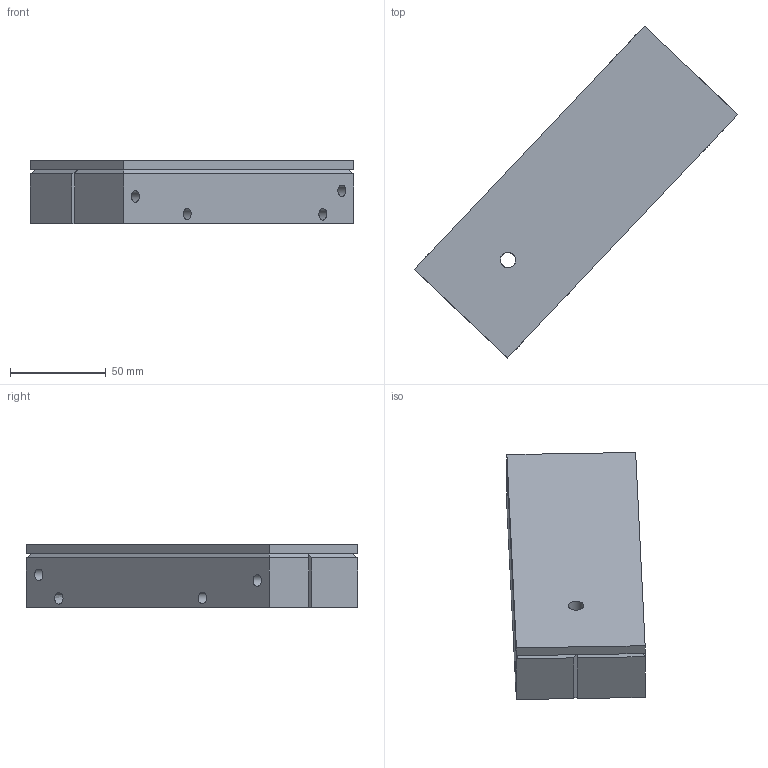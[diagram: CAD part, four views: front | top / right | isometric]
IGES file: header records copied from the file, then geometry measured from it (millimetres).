
Global section: file name: MK5_Forged_Rear_Arm_All; native system: unknown; preprocessor: unknown; author: unknown; organization: unknown; date: 20240418.082513; units: millimetre
Bounding box: 168.72 x 173.01 x 33 mm (x, y, z)
Volume: 374421.8 mm3; surface area: 91836.4 mm2
Topology: 5 solids, 5 shells, 525 faces, 1422 edges, 911 vertices
Faces by surface type: bspline 525
